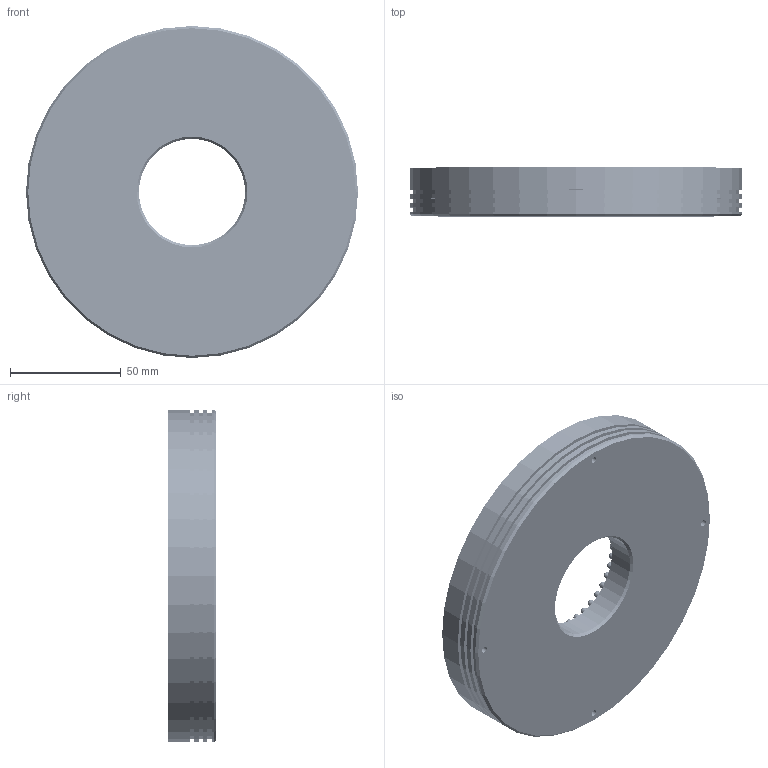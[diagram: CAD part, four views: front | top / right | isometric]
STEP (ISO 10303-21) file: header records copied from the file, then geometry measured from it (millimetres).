
FILE_DESCRIPTION((''),'2;1');
FILE_NAME('70-0W_ASM','2020-03-28T',('ASUS'),(''),'PRO/ENGINEER BY PARAMETRIC TECHNOLOGY CORPORATION, 2008380','PRO/ENGINEER BY PARAMETRIC TECHNOLOGY CORPORATION, 2008380','');
FILE_SCHEMA(('CONFIG_CONTROL_DESIGN'));
Length unit declared in the file: millimetre
Products named in the file (3): 70-0; 4_; 70-0W_ASM
Assembly tree (521 placements, depth 2):
  70-0W_ASM
    70-0
    4_  x520
Bounding box: 150 x 22 x 150 mm (x, y, z)
Volume: 184597.7 mm3; surface area: 116442.6 mm2
Topology: 521 solids, 522 shells, 4212 faces, 8424 edges, 4748 vertices
Faces by surface type: cylinder 2112, plane 1056, sphere 1040, cone 4
Entity records: 5826 total; most frequent: DIRECTION 1364, CARTESIAN_POINT 779, AXIS2_PLACEMENT_3D 662, PRODUCT_DEFINITION_SHAPE 524, ITEM_DEFINED_TRANSFORMATION 521, CONTEXT_DEPENDENT_SHAPE_REPRESENTATION 521, NEXT_ASSEMBLY_USAGE_OCCURRENCE 521, ORIENTED_EDGE 236
